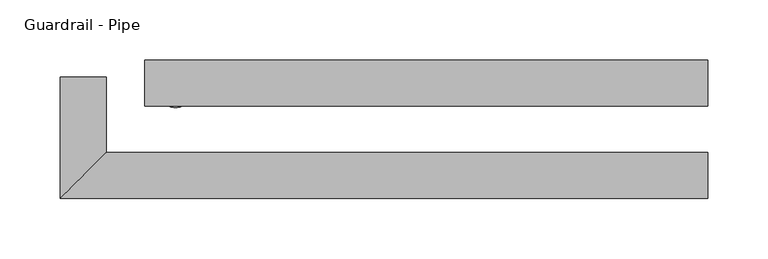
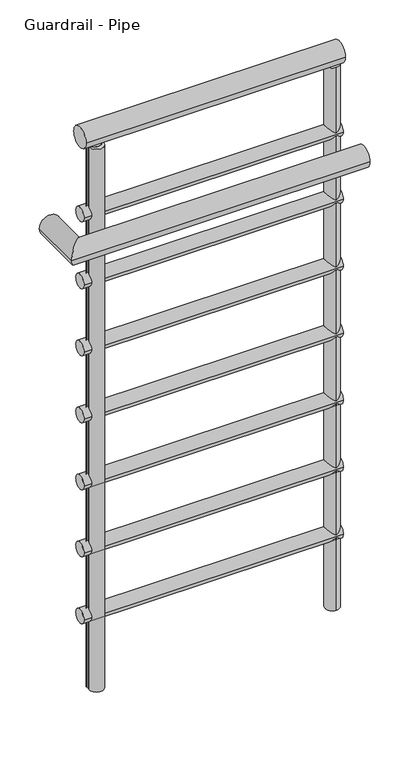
"""IFC4 building model written with IfcOpenShell, lengths in millimetres: railing geometry, Guardrail - Pipe."""

from ifc_helpers import new_model, si_unit, point, frame, frame_2d, origin, place, context, project, spatial, circle_curve, ellipse_curve, trimmed, segment, composite_curve, outline, extrude, source, transform, mapped, element, save
from ifc_brep_helpers import plane_surface, cylinder_surface, advanced_brep


def guardrail_pipe_d562f94d(model_context):
    return source(origin(), model_context, "Body", "SolidModel", [
        advanced_brep(
        [(-520.7862718, 28918.0713154, 4705.35), (-520.7862718, 28956.1713154, 4705.35), (-55.2401664, 28918.0713154, 4705.35), (-55.2401664, 28956.1713154, 4705.35)],
        [
            (0, 1, circle_curve(frame((-520.7862718, 28937.1213154, 4705.35), z_axis=(-1.0, 0.0, 0.0), x_axis=(0.0, 1.0, 0.0)), 19.05)),
            (1, 0, circle_curve(frame((-520.7862718, 28937.1213154, 4705.35), z_axis=(-1.0, 0.0, 0.0), x_axis=(0.0, 1.0, 0.0)), 19.05)),
            (2, 3, circle_curve(frame((-55.2401664, 28937.1213154, 4705.35), z_axis=(1.0, 0.0, 0.0), x_axis=(0.0, 1.0, 0.0)), 19.05)),
            (3, 2, circle_curve(frame((-55.2401664, 28937.1213154, 4705.35), z_axis=(1.0, 0.0, 0.0), x_axis=(0.0, 1.0, 0.0)), 19.05)),
            (1, 3),
            (2, 0),
        ],
        [
            plane_surface(frame((-520.7862718, 28937.1213154, 4724.4), z_axis=(-1.0, 0.0, 0.0), x_axis=(0.0, 1.0, 0.0))),
            plane_surface(frame((-55.2401664, 28937.1213154, 4724.4), z_axis=(1.0, 0.0, 0.0), x_axis=(0.0, 1.0, 0.0))),
            cylinder_surface(frame((-520.7862718, 28937.1213154, 4705.35), z_axis=(-1.0, 0.0, 0.0), x_axis=(0.0, 1.0, 0.0)), 19.05),
        ],
        [
            (0, [[1, 2]]),
            (1, [[3, 4]]),
            (2, [[-2, 5, -3, 6]]),
            (2, [[-1, -6, -4, -5]]),
        ],
    ),
        advanced_brep(
        [(-520.7862718, 28924.4213154, 4559.3), (-520.7862718, 28949.8213154, 4559.3), (-55.2401664, 28924.4213154, 4559.3), (-55.2401664, 28949.8213154, 4559.3)],
        [
            (0, 1, circle_curve(frame((-520.7862718, 28937.1213154, 4559.3), z_axis=(-1.0, 0.0, 0.0), x_axis=(0.0, 1.0, 0.0)), 12.7)),
            (1, 0, circle_curve(frame((-520.7862718, 28937.1213154, 4559.3), z_axis=(-1.0, 0.0, 0.0), x_axis=(0.0, 1.0, 0.0)), 12.7)),
            (2, 3, circle_curve(frame((-55.2401664, 28937.1213154, 4559.3), z_axis=(1.0, 0.0, 0.0), x_axis=(0.0, 1.0, 0.0)), 12.7)),
            (3, 2, circle_curve(frame((-55.2401664, 28937.1213154, 4559.3), z_axis=(1.0, 0.0, 0.0), x_axis=(0.0, 1.0, 0.0)), 12.7)),
            (1, 3),
            (2, 0),
        ],
        [
            plane_surface(frame((-520.7862718, 28937.1213154, 4572.0), z_axis=(-1.0, 0.0, 0.0), x_axis=(0.0, 1.0, 0.0))),
            plane_surface(frame((-55.2401664, 28937.1213154, 4572.0), z_axis=(1.0, 0.0, 0.0), x_axis=(0.0, 1.0, 0.0))),
            cylinder_surface(frame((-520.7862718, 28937.1213154, 4559.3), z_axis=(-1.0, 0.0, 0.0), x_axis=(0.0, 1.0, 0.0)), 12.7),
        ],
        [
            (0, [[1, 2]]),
            (1, [[3, 4]]),
            (2, [[-2, 5, -3, 6]]),
            (2, [[-1, -6, -4, -5]]),
        ],
    ),
        advanced_brep(
        [(-55.2401664, 28841.8713154, 4552.95), (-55.2401664, 28879.9713154, 4552.95), (-590.6362718, 28841.8713154, 4552.95), (-552.5362718, 28879.9713154, 4552.95), (-590.6362718, 28942.3977925, 4552.95), (-552.5362718, 28942.3977925, 4552.95)],
        [
            (0, 1, circle_curve(frame((-55.2401664, 28860.9213154, 4552.95), z_axis=(1.0, 0.0, 0.0), x_axis=(0.0, 1.0, 0.0)), 19.05)),
            (1, 0, circle_curve(frame((-55.2401664, 28860.9213154, 4552.95), z_axis=(1.0, 0.0, 0.0), x_axis=(0.0, 1.0, 0.0)), 19.05)),
            (2, 3, ellipse_curve(frame((-571.5862718, 28860.9213154, 4552.95), z_axis=(0.7071067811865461, -0.7071067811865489, 0.0), x_axis=(-0.7071067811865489, -0.7071067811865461, 0.0)), 26.9407684, 19.05)),
            (3, 1),
            (0, 2),
            (3, 2, ellipse_curve(frame((-571.5862718, 28860.9213154, 4552.95), z_axis=(0.7071067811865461, -0.7071067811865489, 0.0), x_axis=(-0.7071067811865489, -0.7071067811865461, 0.0)), 26.9407684, 19.05)),
            (4, 5, circle_curve(frame((-571.5862718, 28942.3977925, 4552.95), z_axis=(0.0, 1.0, 0.0), x_axis=(1.0, 0.0, 0.0)), 19.05)),
            (5, 4, circle_curve(frame((-571.5862718, 28942.3977925, 4552.95), z_axis=(0.0, 1.0, 0.0), x_axis=(1.0, 0.0, 0.0)), 19.05)),
            (4, 2),
            (3, 5),
        ],
        [
            plane_surface(frame((-55.2401664, 28860.9213154, 4572.0), z_axis=(1.0, 0.0, 0.0), x_axis=(0.0, 1.0, 0.0))),
            cylinder_surface(frame((-571.5862718, 28860.9213154, 4552.95), z_axis=(-1.0, 0.0, 0.0), x_axis=(0.0, 1.0, 0.0)), 19.05),
            plane_surface(frame((-571.5862718, 28942.3977925, 4572.0), z_axis=(0.0, 1.0, 0.0), x_axis=(0.0, 0.0, -1.0))),
            cylinder_surface(frame((-571.5862718, 28942.3977925, 4552.95), z_axis=(0.0, 1.0, 0.0), x_axis=(1.0, 0.0, 0.0)), 19.05),
        ],
        [
            (0, [[1, 2]]),
            (1, [[3, 4, -1, 5]]),
            (1, [[6, -5, -2, -4]]),
            (2, [[7, 8]]),
            (3, [[-7, 9, -6, 10]]),
            (3, [[-8, -10, -3, -9]]),
        ],
    ),
        advanced_brep(
        [(-520.7862718, 28924.4213154, 4432.3), (-520.7862718, 28949.8213154, 4432.3), (-55.2401664, 28924.4213154, 4432.3), (-55.2401664, 28949.8213154, 4432.3)],
        [
            (0, 1, circle_curve(frame((-520.7862718, 28937.1213154, 4432.3), z_axis=(-1.0, 0.0, 0.0), x_axis=(0.0, 1.0, 0.0)), 12.7)),
            (1, 0, circle_curve(frame((-520.7862718, 28937.1213154, 4432.3), z_axis=(-1.0, 0.0, 0.0), x_axis=(0.0, 1.0, 0.0)), 12.7)),
            (2, 3, circle_curve(frame((-55.2401664, 28937.1213154, 4432.3), z_axis=(1.0, 0.0, 0.0), x_axis=(0.0, 1.0, 0.0)), 12.7)),
            (3, 2, circle_curve(frame((-55.2401664, 28937.1213154, 4432.3), z_axis=(1.0, 0.0, 0.0), x_axis=(0.0, 1.0, 0.0)), 12.7)),
            (1, 3),
            (2, 0),
        ],
        [
            plane_surface(frame((-520.7862718, 28937.1213154, 4445.0), z_axis=(-1.0, 0.0, 0.0), x_axis=(0.0, 1.0, 0.0))),
            plane_surface(frame((-55.2401664, 28937.1213154, 4445.0), z_axis=(1.0, 0.0, 0.0), x_axis=(0.0, 1.0, 0.0))),
            cylinder_surface(frame((-520.7862718, 28937.1213154, 4432.3), z_axis=(-1.0, 0.0, 0.0), x_axis=(0.0, 1.0, 0.0)), 12.7),
        ],
        [
            (0, [[1, 2]]),
            (1, [[3, 4]]),
            (2, [[-2, 5, -3, 6]]),
            (2, [[-1, -6, -4, -5]]),
        ],
    ),
        advanced_brep(
        [(-520.7862718, 28924.4213154, 4305.3), (-520.7862718, 28949.8213154, 4305.3), (-55.2401664, 28924.4213154, 4305.3), (-55.2401664, 28949.8213154, 4305.3)],
        [
            (0, 1, circle_curve(frame((-520.7862718, 28937.1213154, 4305.3), z_axis=(-1.0, 0.0, 0.0), x_axis=(0.0, 1.0, 0.0)), 12.7)),
            (1, 0, circle_curve(frame((-520.7862718, 28937.1213154, 4305.3), z_axis=(-1.0, 0.0, 0.0), x_axis=(0.0, 1.0, 0.0)), 12.7)),
            (2, 3, circle_curve(frame((-55.2401664, 28937.1213154, 4305.3), z_axis=(1.0, 0.0, 0.0), x_axis=(0.0, 1.0, 0.0)), 12.7)),
            (3, 2, circle_curve(frame((-55.2401664, 28937.1213154, 4305.3), z_axis=(1.0, 0.0, 0.0), x_axis=(0.0, 1.0, 0.0)), 12.7)),
            (1, 3),
            (2, 0),
        ],
        [
            plane_surface(frame((-520.7862718, 28937.1213154, 4318.0), z_axis=(-1.0, 0.0, 0.0), x_axis=(0.0, 1.0, 0.0))),
            plane_surface(frame((-55.2401664, 28937.1213154, 4318.0), z_axis=(1.0, 0.0, 0.0), x_axis=(0.0, 1.0, 0.0))),
            cylinder_surface(frame((-520.7862718, 28937.1213154, 4305.3), z_axis=(-1.0, 0.0, 0.0), x_axis=(0.0, 1.0, 0.0)), 12.7),
        ],
        [
            (0, [[1, 2]]),
            (1, [[3, 4]]),
            (2, [[-2, 5, -3, 6]]),
            (2, [[-1, -6, -4, -5]]),
        ],
    ),
        advanced_brep(
        [(-520.7862718, 28924.4213154, 4178.3), (-520.7862718, 28949.8213154, 4178.3), (-55.2401664, 28924.4213154, 4178.3), (-55.2401664, 28949.8213154, 4178.3)],
        [
            (0, 1, circle_curve(frame((-520.7862718, 28937.1213154, 4178.3), z_axis=(-1.0, 0.0, 0.0), x_axis=(0.0, 1.0, 0.0)), 12.7)),
            (1, 0, circle_curve(frame((-520.7862718, 28937.1213154, 4178.3), z_axis=(-1.0, 0.0, 0.0), x_axis=(0.0, 1.0, 0.0)), 12.7)),
            (2, 3, circle_curve(frame((-55.2401664, 28937.1213154, 4178.3), z_axis=(1.0, 0.0, 0.0), x_axis=(0.0, 1.0, 0.0)), 12.7)),
            (3, 2, circle_curve(frame((-55.2401664, 28937.1213154, 4178.3), z_axis=(1.0, 0.0, 0.0), x_axis=(0.0, 1.0, 0.0)), 12.7)),
            (1, 3),
            (2, 0),
        ],
        [
            plane_surface(frame((-520.7862718, 28937.1213154, 4191.0), z_axis=(-1.0, 0.0, 0.0), x_axis=(0.0, 1.0, 0.0))),
            plane_surface(frame((-55.2401664, 28937.1213154, 4191.0), z_axis=(1.0, 0.0, 0.0), x_axis=(0.0, 1.0, 0.0))),
            cylinder_surface(frame((-520.7862718, 28937.1213154, 4178.3), z_axis=(-1.0, 0.0, 0.0), x_axis=(0.0, 1.0, 0.0)), 12.7),
        ],
        [
            (0, [[1, 2]]),
            (1, [[3, 4]]),
            (2, [[-2, 5, -3, 6]]),
            (2, [[-1, -6, -4, -5]]),
        ],
    ),
        advanced_brep(
        [(-520.7862718, 28924.4213154, 4051.3), (-520.7862718, 28949.8213154, 4051.3), (-55.2401664, 28924.4213154, 4051.3), (-55.2401664, 28949.8213154, 4051.3)],
        [
            (0, 1, circle_curve(frame((-520.7862718, 28937.1213154, 4051.3), z_axis=(-1.0, 0.0, 0.0), x_axis=(0.0, 1.0, 0.0)), 12.7)),
            (1, 0, circle_curve(frame((-520.7862718, 28937.1213154, 4051.3), z_axis=(-1.0, 0.0, 0.0), x_axis=(0.0, 1.0, 0.0)), 12.7)),
            (2, 3, circle_curve(frame((-55.2401664, 28937.1213154, 4051.3), z_axis=(1.0, 0.0, 0.0), x_axis=(0.0, 1.0, 0.0)), 12.7)),
            (3, 2, circle_curve(frame((-55.2401664, 28937.1213154, 4051.3), z_axis=(1.0, 0.0, 0.0), x_axis=(0.0, 1.0, 0.0)), 12.7)),
            (1, 3),
            (2, 0),
        ],
        [
            plane_surface(frame((-520.7862718, 28937.1213154, 4064.0), z_axis=(-1.0, 0.0, 0.0), x_axis=(0.0, 1.0, 0.0))),
            plane_surface(frame((-55.2401664, 28937.1213154, 4064.0), z_axis=(1.0, 0.0, 0.0), x_axis=(0.0, 1.0, 0.0))),
            cylinder_surface(frame((-520.7862718, 28937.1213154, 4051.3), z_axis=(-1.0, 0.0, 0.0), x_axis=(0.0, 1.0, 0.0)), 12.7),
        ],
        [
            (0, [[1, 2]]),
            (1, [[3, 4]]),
            (2, [[-2, 5, -3, 6]]),
            (2, [[-1, -6, -4, -5]]),
        ],
    ),
        advanced_brep(
        [(-520.7862718, 28924.4213154, 3924.3), (-520.7862718, 28949.8213154, 3924.3), (-55.2401664, 28924.4213154, 3924.3), (-55.2401664, 28949.8213154, 3924.3)],
        [
            (0, 1, circle_curve(frame((-520.7862718, 28937.1213154, 3924.3), z_axis=(-1.0, 0.0, 0.0), x_axis=(0.0, 1.0, 0.0)), 12.7)),
            (1, 0, circle_curve(frame((-520.7862718, 28937.1213154, 3924.3), z_axis=(-1.0, 0.0, 0.0), x_axis=(0.0, 1.0, 0.0)), 12.7)),
            (2, 3, circle_curve(frame((-55.2401664, 28937.1213154, 3924.3), z_axis=(1.0, 0.0, 0.0), x_axis=(0.0, 1.0, 0.0)), 12.7)),
            (3, 2, circle_curve(frame((-55.2401664, 28937.1213154, 3924.3), z_axis=(1.0, 0.0, 0.0), x_axis=(0.0, 1.0, 0.0)), 12.7)),
            (1, 3),
            (2, 0),
        ],
        [
            plane_surface(frame((-520.7862718, 28937.1213154, 3937.0), z_axis=(-1.0, 0.0, 0.0), x_axis=(0.0, 1.0, 0.0))),
            plane_surface(frame((-55.2401664, 28937.1213154, 3937.0), z_axis=(1.0, 0.0, 0.0), x_axis=(0.0, 1.0, 0.0))),
            cylinder_surface(frame((-520.7862718, 28937.1213154, 3924.3), z_axis=(-1.0, 0.0, 0.0), x_axis=(0.0, 1.0, 0.0)), 12.7),
        ],
        [
            (0, [[1, 2]]),
            (1, [[3, 4]]),
            (2, [[-2, 5, -3, 6]]),
            (2, [[-1, -6, -4, -5]]),
        ],
    ),
        advanced_brep(
        [(-520.7862718, 28924.4213154, 3797.3), (-520.7862718, 28949.8213154, 3797.3), (-55.2401664, 28924.4213154, 3797.3), (-55.2401664, 28949.8213154, 3797.3)],
        [
            (0, 1, circle_curve(frame((-520.7862718, 28937.1213154, 3797.3), z_axis=(-1.0, 0.0, 0.0), x_axis=(0.0, 1.0, 0.0)), 12.7)),
            (1, 0, circle_curve(frame((-520.7862718, 28937.1213154, 3797.3), z_axis=(-1.0, 0.0, 0.0), x_axis=(0.0, 1.0, 0.0)), 12.7)),
            (2, 3, circle_curve(frame((-55.2401664, 28937.1213154, 3797.3), z_axis=(1.0, 0.0, 0.0), x_axis=(0.0, 1.0, 0.0)), 12.7)),
            (3, 2, circle_curve(frame((-55.2401664, 28937.1213154, 3797.3), z_axis=(1.0, 0.0, 0.0), x_axis=(0.0, 1.0, 0.0)), 12.7)),
            (1, 3),
            (2, 0),
        ],
        [
            plane_surface(frame((-520.7862718, 28937.1213154, 3810.0), z_axis=(-1.0, 0.0, 0.0), x_axis=(0.0, 1.0, 0.0))),
            plane_surface(frame((-55.2401664, 28937.1213154, 3810.0), z_axis=(1.0, 0.0, 0.0), x_axis=(0.0, 1.0, 0.0))),
            cylinder_surface(frame((-520.7862718, 28937.1213154, 3797.3), z_axis=(-1.0, 0.0, 0.0), x_axis=(0.0, 1.0, 0.0)), 12.7),
        ],
        [
            (0, [[1, 2]]),
            (1, [[3, 4]]),
            (2, [[-2, 5, -3, 6]]),
            (2, [[-1, -6, -4, -5]]),
        ],
    ),
        extrude(outline(composite_curve([segment(trimmed(circle_curve(frame_2d((-495.3862718, 28937.1213154)), 12.7), [point((-508.0862718, 28937.1213154))], [point((-482.6862718, 28937.1213154))], False, "CARTESIAN"), True, "CONTINUOUS"), segment(trimmed(circle_curve(frame_2d((-495.3862718, 28937.1213154)), 12.7), [point((-482.6862718, 28937.1213154))], [point((-508.0862718, 28937.1213154))], False, "CARTESIAN"), True, "CONTINUOUS")], self_intersect=False)), frame((0.0, 0.0, 3657.6), z_axis=(0.0, 0.0, 1.0), x_axis=(1.0, 0.0, 0.0)), (0.0, 0.0, 1.0), 1028.7),
        extrude(outline(composite_curve([segment(trimmed(circle_curve(frame_2d((-67.9401664, 28937.1213154)), 12.7), [point((-67.9401664, 28924.4213154))], [point((-67.9401664, 28949.8213154))], False, "CARTESIAN"), True, "CONTINUOUS"), segment(trimmed(circle_curve(frame_2d((-67.9401664, 28937.1213154)), 12.7), [point((-67.9401664, 28949.8213154))], [point((-67.9401664, 28924.4213154))], False, "CARTESIAN"), True, "CONTINUOUS")], self_intersect=False)), frame((0.0, 0.0, 3657.6), z_axis=(0.0, 0.0, 1.0), x_axis=(1.0, 0.0, 0.0)), (0.0, 0.0, 1.0), 1028.7),
        extrude(outline(composite_curve([segment(trimmed(circle_curve(frame_2d((-495.3862718, 28929.6977925)), 12.7), [point((-508.0862718, 28929.6977925))], [point((-482.6862718, 28929.6977925))], False, "CARTESIAN"), True, "CONTINUOUS"), segment(trimmed(circle_curve(frame_2d((-495.3862718, 28929.6977925)), 12.7), [point((-482.6862718, 28929.6977925))], [point((-508.0862718, 28929.6977925))], False, "CARTESIAN"), True, "CONTINUOUS")], self_intersect=False)), frame((0.0, 0.0, 3657.6), z_axis=(0.0, 0.0, 1.0), x_axis=(1.0, 0.0, 0.0)), (0.0, 0.0, 1.0), 1028.7),
    ])


if __name__ == "__main__":
    model = new_model("IFC4")
    model_context = context("Model", 3, world=origin())
    ifc_project = project(units=[si_unit("LENGTHUNIT", "METRE", prefix="MILLI")], contexts=[model_context])
    site = spatial("IfcSite", under=ifc_project)
    building = spatial("IfcBuilding", under=site)
    placement = place(None, origin())
    guardrail_pipe_shape = guardrail_pipe_d562f94d(model_context)
    element("IfcRailing", 1, ObjectType="Guardrail - Pipe", at=placement, inside=building, context=model_context, shape_type="MappedRepresentation", body=[
        mapped(guardrail_pipe_shape, transform((0.0, 0.0, 0.0), x_axis=(1.0, 0.0, 0.0), y_axis=(0.0, 1.0, 0.0), z_axis=(0.0, 0.0, 1.0))),
    ])
    save(model, "model.ifc")
